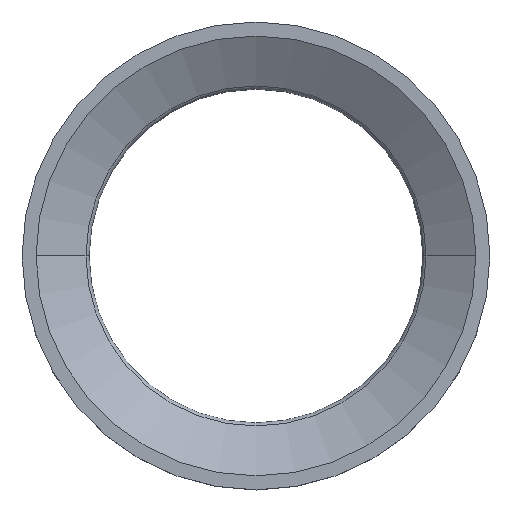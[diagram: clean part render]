
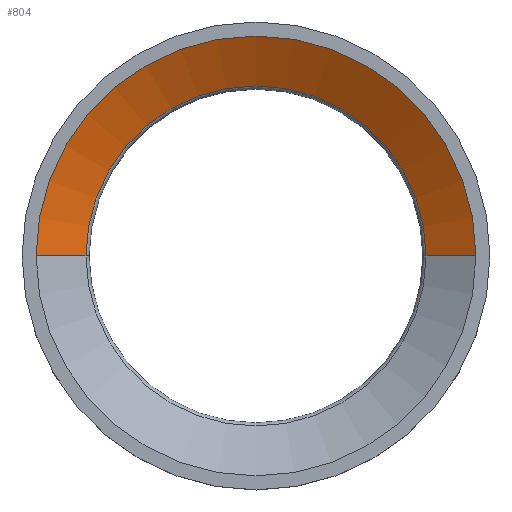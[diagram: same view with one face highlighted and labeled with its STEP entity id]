
A CAD part, top view. The second image highlights one B-rep face of the part: STEP entity #804.
In plain terms, the highlighted conical face has half-angle 60 degrees and reference radius 62.5 mm.
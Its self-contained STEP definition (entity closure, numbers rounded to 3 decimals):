
#112=DIRECTION('',(-0.866,0.,-0.5));
#113=VECTOR('',#112,18.475);
#114=CARTESIAN_POINT('',(70.5,0.,25.));
#115=LINE('',#114,#113);
#116=CARTESIAN_POINT('',(0.,0.,15.762));
#117=DIRECTION('',(0.,0.,1.));
#118=DIRECTION('',(1.,0.,0.));
#119=AXIS2_PLACEMENT_3D('',#116,#117,#118);
#121=DIRECTION('',(0.866,0.,-0.5));
#122=VECTOR('',#121,18.475);
#123=CARTESIAN_POINT('',(-70.5,0.,
25.));
#124=LINE('',#123,#122);
#140=CARTESIAN_POINT('',(0.,0.,25.));
#141=DIRECTION('',(0.,0.,-1.));
#142=DIRECTION('',(-1.,0.,0.));
#143=AXIS2_PLACEMENT_3D('',#140,#141,#142);
#519=CARTESIAN_POINT('',(70.5,0.,
25.));
#520=CARTESIAN_POINT('',(-70.5,0.,25.));
#521=VERTEX_POINT('',#519);
#522=VERTEX_POINT('',#520);
#527=CARTESIAN_POINT('',(-54.5,0.,
15.762));
#528=CARTESIAN_POINT('',(54.5,0.,15.762));
#529=VERTEX_POINT('',#527);
#530=VERTEX_POINT('',#528);
#792=CARTESIAN_POINT('',(0.,0.,20.381));
#793=DIRECTION('',(0.,0.,1.));
#794=DIRECTION('',(0.,-1.,0.));
#795=AXIS2_PLACEMENT_3D('',#792,#793,#794);
#796=CONICAL_SURFACE('',#795,62.5,60.);
#797=ORIENTED_EDGE('',*,*,#757,.T.);
#798=ORIENTED_EDGE('',*,*,#787,.F.);
#800=ORIENTED_EDGE('',*,*,#799,.T.);
#801=ORIENTED_EDGE('',*,*,#783,.T.);
#802=EDGE_LOOP('',(#797,#798,#800,#801));
#803=FACE_OUTER_BOUND('',#802,.F.);
#120=CIRCLE('',#119,54.5);
#144=CIRCLE('',#143,70.5);
#757=EDGE_CURVE('',#530,#529,#120,.T.);
#783=EDGE_CURVE('',#521,#530,#115,.T.);
#787=EDGE_CURVE('',#522,#529,#124,.T.);
#799=EDGE_CURVE('',#522,#521,#144,.T.);
#804=ADVANCED_FACE('',(#803),#796,.F.);
